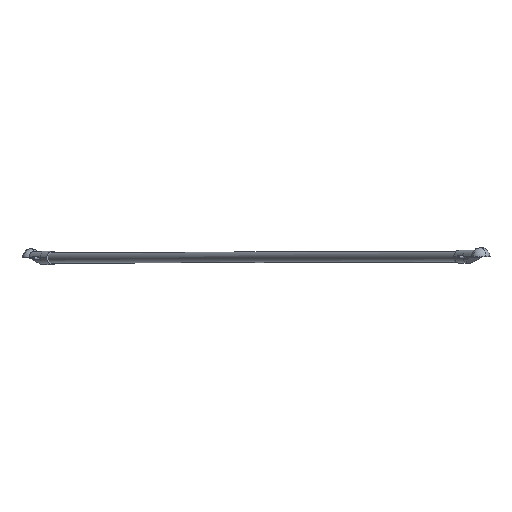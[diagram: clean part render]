
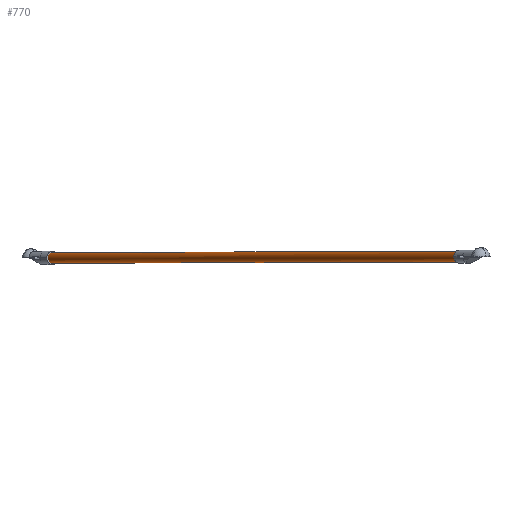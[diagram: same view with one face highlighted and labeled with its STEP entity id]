
A CAD part, top view. The second image highlights one B-rep face of the part: STEP entity #770.
In plain terms, the highlighted cylindrical face has radius 7 mm (diameter 14 mm), a partial arc.
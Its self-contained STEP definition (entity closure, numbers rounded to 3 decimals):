
#15 = CARTESIAN_POINT ( 'NONE',  ( 62.801, 51., -1183.993 ) ) ;
#34 = DIRECTION ( 'NONE',  ( 0.531, 0., 0.848 ) ) ;
#96 = DIRECTION ( 'NONE',  ( 0., 1., 0. ) ) ;
#104 = VECTOR ( 'NONE', #34, 1000. ) ;
#134 = LINE ( 'NONE', #874, #104 ) ;
#188 = CIRCLE ( 'NONE', #208, 7. ) ;
#199 = CARTESIAN_POINT ( 'NONE',  ( 62.801, 51., -1183.993 ) ) ;
#208 = AXIS2_PLACEMENT_3D ( 'NONE', #946, #465, #1020 ) ;
#297 = DIRECTION ( 'NONE',  ( 0., -1., 0. ) ) ;
#367 = CARTESIAN_POINT ( 'NONE',  ( 614.157, 44., -303.353 ) ) ;
#438 = ORIENTED_EDGE ( 'NONE', *, *, #1070, .T. ) ;
#450 = VECTOR ( 'NONE', #1040, 1000. ) ;
#465 = DIRECTION ( 'NONE',  ( -0.531, 0., -0.848 ) ) ;
#506 = ORIENTED_EDGE ( 'NONE', *, *, #578, .T. ) ;
#522 = AXIS2_PLACEMENT_3D ( 'NONE', #15, #675, #96 ) ;
#578 = EDGE_CURVE ( 'NONE', #830, #1038, #134, .T. ) ;
#582 = AXIS2_PLACEMENT_3D ( 'NONE', #199, #774, #297 ) ;
#611 = VERTEX_POINT ( 'NONE', #1177 ) ;
#622 = CIRCLE ( 'NONE', #522, 7. ) ;
#646 = CARTESIAN_POINT ( 'NONE',  ( 62.801, 58., -1183.993 ) ) ;
#675 = DIRECTION ( 'NONE',  ( -0.531, 0., -0.848 ) ) ;
#715 = EDGE_CURVE ( 'NONE', #611, #1031, #741, .T. ) ;
#741 = LINE ( 'NONE', #646, #450 ) ;
#770 = ADVANCED_FACE ( 'NONE', ( #959 ), #872, .T. ) ;
#774 = DIRECTION ( 'NONE',  ( 0.531, 0., 0.848 ) ) ;
#810 = EDGE_CURVE ( 'NONE', #830, #611, #622, .T. ) ;
#830 = VERTEX_POINT ( 'NONE', #859 ) ;
#859 = CARTESIAN_POINT ( 'NONE',  ( 62.801, 44., -1183.993 ) ) ;
#872 = CYLINDRICAL_SURFACE ( 'NONE', #582, 7. ) ;
#874 = CARTESIAN_POINT ( 'NONE',  ( 62.801, 44., -1183.993 ) ) ;
#891 = ORIENTED_EDGE ( 'NONE', *, *, #715, .F. ) ;
#946 = CARTESIAN_POINT ( 'NONE',  ( 614.157, 51., -303.353 ) ) ;
#959 = FACE_OUTER_BOUND ( 'NONE', #1113, .T. ) ;
#964 = ORIENTED_EDGE ( 'NONE', *, *, #810, .F. ) ;
#1020 = DIRECTION ( 'NONE',  ( 0., 1., 0. ) ) ;
#1031 = VERTEX_POINT ( 'NONE', #1220 ) ;
#1038 = VERTEX_POINT ( 'NONE', #367 ) ;
#1040 = DIRECTION ( 'NONE',  ( 0.531, 0., 0.848 ) ) ;
#1070 = EDGE_CURVE ( 'NONE', #1038, #1031, #188, .T. ) ;
#1113 = EDGE_LOOP ( 'NONE', ( #891, #964, #506, #438 ) ) ;
#1177 = CARTESIAN_POINT ( 'NONE',  ( 62.801, 58., -1183.993 ) ) ;
#1220 = CARTESIAN_POINT ( 'NONE',  ( 614.157, 58., -303.353 ) ) ;
